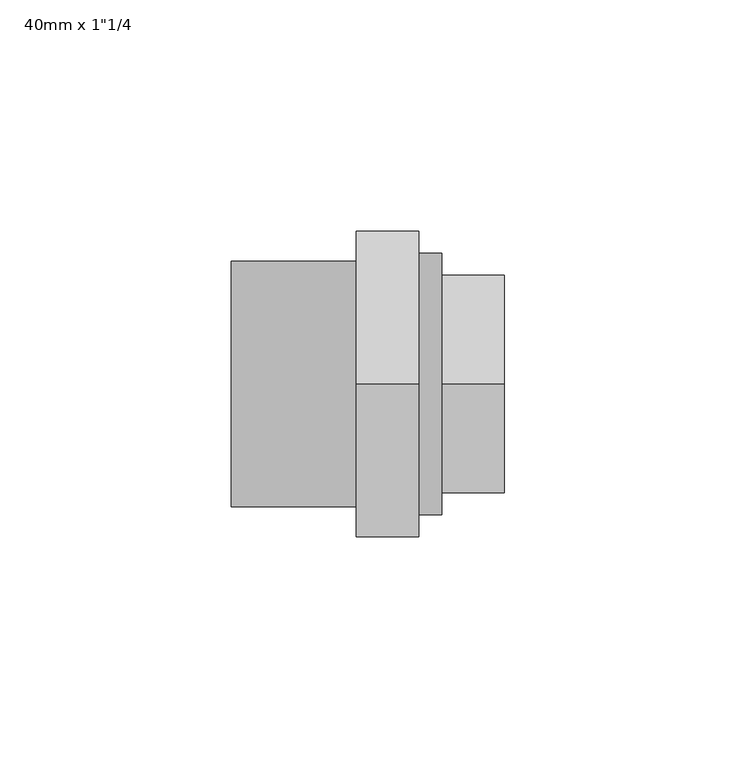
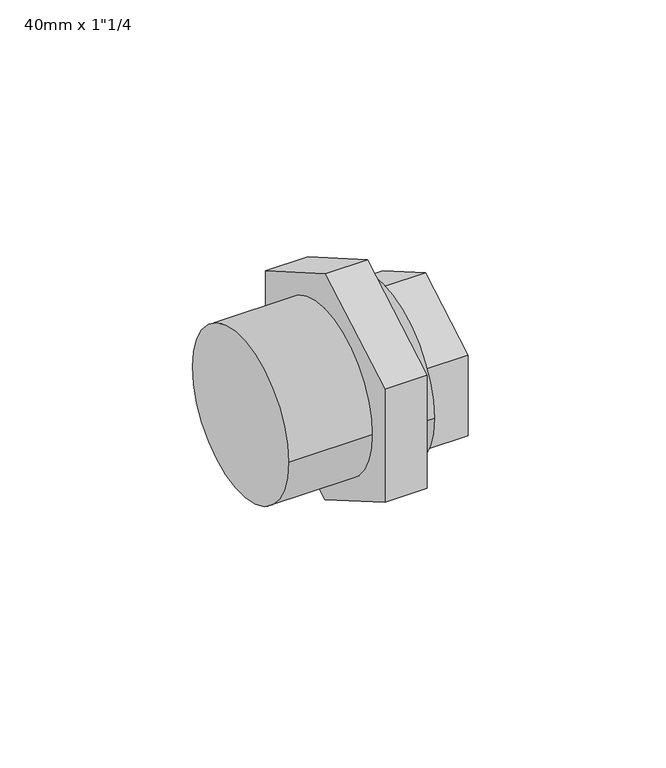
"""IFC4 building model written with IfcOpenShell, lengths in millimetres: pipe fitting geometry."""

import ifcopenshell
import ifcopenshell.guid

model = None  # the IFC model being written
_history = None  # IfcOwnerHistory: only IFC2X3 demands one
_inside = {}  # id of a spatial element -> (the spatial element, [elements in it])
_under = {}  # id of a project, library or spatial element -> (it, [spatial elements below it])
_declared = {}  # id of a project -> (the project, [libraries it declares])
_typed = {}  # id of a type object -> (the type object, [elements of that type])
_made_of = {}  # id of a material, layer set ... -> (it, [elements and type objects made of it])


def new_model(schema):
    """Start an empty IFC model of exactly this schema.

    Asked for "IFC4X3", IfcOpenShell would pick the latest addendum, in which some entities
    have other attributes; the version numbers below select the first issue.
    IFC2X3 requires an IfcOwnerHistory on every rooted entity: one is made here for all.
    """
    global model, _history
    if schema == "IFC4X3":
        model = ifcopenshell.file(schema_version=(4, 3, 0, 0))
    else:
        model = ifcopenshell.file(schema=schema)
    _inside.clear()
    _under.clear()
    _declared.clear()
    _typed.clear()
    _made_of.clear()
    _history = None
    if model.schema == "IFC2X3":
        org = make("IfcOrganization", Name="unknown")
        user = make(
            "IfcPersonAndOrganization",
            ThePerson=make("IfcPerson", FamilyName="unknown"),
            TheOrganization=org,
        )
        app = make(
            "IfcApplication",
            ApplicationDeveloper=org,
            Version="unknown",
            ApplicationFullName="unknown",
            ApplicationIdentifier="unknown",
        )
        _history = make(
            "IfcOwnerHistory",
            OwningUser=user,
            OwningApplication=app,
            ChangeAction="ADDED",
            CreationDate=0,
        )
    return model


def make(cls, **values):
    """One entity of the class cls with the attributes given. An attribute that is None is left unset."""
    return model.create_entity(
        cls, **{name: value for name, value in values.items() if value is not None}
    )


def rooted(cls, **values):
    """An entity with a GlobalId (a new one), such as an element, a storey or a relation."""
    return make(cls, GlobalId=ifcopenshell.guid.new(), OwnerHistory=_history, **values)


def si_unit(unit_type, name, prefix=None):
    """IfcSIUnit, for example si_unit("LENGTHUNIT", "METRE", prefix="MILLI")."""
    return make("IfcSIUnit", UnitType=unit_type, Prefix=prefix, Name=name)


def assignment(units):
    """IfcUnitAssignment: the units of a project."""
    return None if units is None else make("IfcUnitAssignment", Units=units)


def point(xyz):
    """IfcCartesianPoint."""
    return None if xyz is None else make("IfcCartesianPoint", Coordinates=xyz)


def direction(xyz):
    """IfcDirection."""
    return None if xyz is None else make("IfcDirection", DirectionRatios=xyz)


def frame(location, z_axis=None, x_axis=None):
    """IfcAxis2Placement3D, a coordinate frame: its origin and axes. An axis left out is left unset."""
    return make(
        "IfcAxis2Placement3D",
        Location=point(location),
        Axis=direction(z_axis),
        RefDirection=direction(x_axis),
    )


def frame_2d(location, x_axis=None):
    """IfcAxis2Placement2D, a coordinate frame in the plane: its origin and x axis."""
    return make(
        "IfcAxis2Placement2D", Location=point(location), RefDirection=direction(x_axis)
    )


def origin():
    """The frame at (0, 0, 0) with its axes left unset."""
    return frame((0.0, 0.0, 0.0))


def origin_2d():
    """The frame at (0, 0) in the plane with its x axis left unset."""
    return frame_2d((0.0, 0.0))


def place(relative_to, where):
    """IfcLocalPlacement: puts the frame where relative to a parent placement (None: the world)."""
    return make(
        "IfcLocalPlacement", PlacementRelTo=relative_to, RelativePlacement=where
    )


def context(
    kind, dimensions, precision=None, world=None, true_north=None, identifier=None
):
    """IfcGeometricRepresentationContext, for example the 3D "Model" context."""
    return make(
        "IfcGeometricRepresentationContext",
        ContextIdentifier=identifier,
        ContextType=kind,
        CoordinateSpaceDimension=dimensions,
        Precision=precision,
        WorldCoordinateSystem=world,
        TrueNorth=true_north,
    )


def project(units=None, contexts=None):
    """IfcProject with its units and contexts."""
    return rooted(
        "IfcProject",
        Name="project",
        RepresentationContexts=contexts,
        UnitsInContext=assignment(units),
    )


def spatial(cls, under=None, at=None, **own):
    """A site, building, storey or space (cls), placed at a placement, below another one or the project."""
    s = rooted(cls, ObjectPlacement=at, **own)
    if under is not None:
        _under.setdefault(under.id(), (under, []))[1].append(s)
    return s


def circle_curve(where, radius):
    """IfcCircle in the frame where."""
    return make("IfcCircle", Position=where, Radius=radius)


def trimmed(basis, trim1, trim2, sense, master):
    """IfcTrimmedCurve: the piece of a basis curve between two trims."""
    return make(
        "IfcTrimmedCurve",
        BasisCurve=basis,
        Trim1=trim1,
        Trim2=trim2,
        SenseAgreement=sense,
        MasterRepresentation=master,
    )


def segment(curve, same_sense, transition):
    """IfcCompositeCurveSegment."""
    return make(
        "IfcCompositeCurveSegment",
        Transition=transition,
        SameSense=same_sense,
        ParentCurve=curve,
    )


def composite_curve(segments, self_intersect=None):
    """IfcCompositeCurve: segments joined end to end."""
    return make("IfcCompositeCurve", Segments=segments, SelfIntersect=self_intersect)


def outline(outer, holes=None, kind="AREA"):
    """IfcArbitraryClosedProfileDef: a profile drawn as a closed curve; with holes, ...WithVoids."""
    if holes is None:
        return make("IfcArbitraryClosedProfileDef", ProfileType=kind, OuterCurve=outer)
    return make(
        "IfcArbitraryProfileDefWithVoids",
        ProfileType=kind,
        OuterCurve=outer,
        InnerCurves=holes,
    )


def extrude(swept, where, along, depth):
    """IfcExtrudedAreaSolid: the profile swept, set in the frame where, extruded along a direction by depth."""
    return make(
        "IfcExtrudedAreaSolid",
        SweptArea=swept,
        Position=where,
        ExtrudedDirection=direction(along),
        Depth=depth,
    )


def shape(context_of_items, identifier, shape_type, items):
    """IfcShapeRepresentation: the items that make up one representation, for example the "Body"."""
    return make(
        "IfcShapeRepresentation",
        ContextOfItems=context_of_items,
        RepresentationIdentifier=identifier,
        RepresentationType=shape_type,
        Items=items,
    )


def source(mapping_origin, context_of_items, identifier, shape_type, items):
    """IfcRepresentationMap: a shape defined once, which mapped items show again and again."""
    return make(
        "IfcRepresentationMap",
        MappingOrigin=mapping_origin,
        MappedRepresentation=shape(context_of_items, identifier, shape_type, items),
    )


def transform(
    local_origin,
    x_axis=None,
    y_axis=None,
    z_axis=None,
    scale=None,
    scale2=None,
    scale3=None,
    uniform=True,
):
    """IfcCartesianTransformationOperator3D, or its non-uniform kind. x_axis, y_axis, z_axis: its Axis1, 2, 3."""
    if uniform:
        return make(
            "IfcCartesianTransformationOperator3D",
            Axis1=direction(x_axis),
            Axis2=direction(y_axis),
            LocalOrigin=point(local_origin),
            Scale=scale,
            Axis3=direction(z_axis),
        )
    return make(
        "IfcCartesianTransformationOperator3DnonUniform",
        Axis1=direction(x_axis),
        Axis2=direction(y_axis),
        LocalOrigin=point(local_origin),
        Scale=scale,
        Axis3=direction(z_axis),
        Scale2=scale2,
        Scale3=scale3,
    )


def mapped(mapping_source, mapping_target):
    """IfcMappedItem: shows the shape of a source again, moved by a transform."""
    return make(
        "IfcMappedItem", MappingSource=mapping_source, MappingTarget=mapping_target
    )


def made_of(thing, what):
    """Note that an element or type object is made of a material, layer set ...; save() writes the relation."""
    if what is not None:
        _made_of.setdefault(what.id(), (what, []))[1].append(thing)
    return thing


def element(
    cls,
    number,
    at=None,
    inside=None,
    cuts=None,
    type_object=None,
    material=None,
    context=None,
    identifier="Body",
    shape_type=None,
    held_by="IfcProductDefinitionShape",
    body=None,
    shapes=None,
    **own,
):
    """One element of the class cls, such as IfcWall. Its Tag is "e" and its number.

    at: its placement. inside: the storey or other place that contains it. cuts: it is an
    opening in that element (IfcRelVoidsElement). A single representation is given by context,
    identifier, shape_type and body (its items); several are given by shapes. held_by: the class
    of the entity that holds the representations. save() writes the other relations.
    """
    e = rooted(cls, Tag="e%d" % number, ObjectPlacement=at, **own)
    if body is not None:
        shapes = [shape(context, identifier, shape_type, body)]
    if shapes is not None:
        e.Representation = make(held_by, Representations=shapes)
    if inside is not None:
        _inside.setdefault(inside.id(), (inside, []))[1].append(e)
    if cuts is not None:
        rooted(
            "IfcRelVoidsElement", RelatingBuildingElement=cuts, RelatedOpeningElement=e
        )
    if type_object is not None:
        _typed.setdefault(type_object.id(), (type_object, []))[1].append(e)
    return made_of(e, material)


def aggregate(whole, parts):
    """IfcRelAggregates: a whole, such as a stair, and the parts it consists of."""
    return rooted("IfcRelAggregates", RelatingObject=whole, RelatedObjects=parts)


def save(model, path):
    """Write the relations noted so far, then the file.

    IfcRelAggregates (storeys below a building ...), IfcRelContainedInSpatialStructure (elements
    in a storey), IfcRelDefinesByType, IfcRelAssociatesMaterial and IfcRelDeclares: one each for
    every whole, place, type object, material and project.
    """
    for whole, parts in _under.values():
        aggregate(whole, parts)
    for where, things in _inside.values():
        rooted(
            "IfcRelContainedInSpatialStructure",
            RelatedElements=things,
            RelatingStructure=where,
        )
    for kind, things in _typed.values():
        rooted("IfcRelDefinesByType", RelatedObjects=things, RelatingType=kind)
    for what, things in _made_of.values():
        rooted("IfcRelAssociatesMaterial", RelatedObjects=things, RelatingMaterial=what)
    for by, libraries in _declared.values():
        rooted("IfcRelDeclares", RelatingContext=by, RelatedDefinitions=libraries)
    model.write(path)


def plane_surface(at):
    """IfcPlane: the flat surface through the origin of the frame at, square to its z axis."""
    return make("IfcPlane", Position=at)


def cylinder_surface(at, radius):
    """IfcCylindricalSurface: all points at the distance radius from the z axis of the frame at."""
    return make("IfcCylindricalSurface", Position=at, Radius=radius)


def advanced_brep(points, edges, surfaces, faces):
    """IfcAdvancedBrep: a solid bounded by faces that lie on surfaces and meet in shared edges.

    An edge is (start, end): straight between two places in points (the first is 0);
    or (start, end, curve); or (start, end, curve, False) where it runs against its curve.
    A face is (place in surfaces, loops), or (place, loops, False) where it looks against
    its surface's normal. A loop lists edges by number (the first is 1), with a minus sign
    where the edge is run from its end to its start. The first loop is the outer one.
    """
    corners = [point(p) for p in points]
    vertices = [make("IfcVertexPoint", VertexGeometry=c) for c in corners]
    made = []
    for start, end, *more in edges:
        made.append(
            make(
                "IfcEdgeCurve",
                EdgeStart=vertices[start],
                EdgeEnd=vertices[end],
                EdgeGeometry=more[0] if more else make("IfcPolyline", Points=[corners[start], corners[end]]),
                SameSense=more[1] if len(more) > 1 else True,
            )
        )
    hull = []
    for where, loops, *sense in faces:
        bounds = []
        for j, loop in enumerate(loops):
            ring = [make("IfcOrientedEdge", EdgeElement=made[abs(k) - 1], Orientation=k > 0) for k in loop]
            bounds.append(
                make(
                    "IfcFaceOuterBound" if j == 0 else "IfcFaceBound",
                    Bound=make("IfcEdgeLoop", EdgeList=ring),
                    Orientation=True,
                )
            )
        hull.append(make("IfcAdvancedFace", Bounds=bounds, FaceSurface=surfaces[where], SameSense=sense[0] if sense else True))
    return make("IfcAdvancedBrep", Outer=make("IfcClosedShell", CfsFaces=hull))


def pipe_fitting_eeb10d21(model_context):
    return source(origin(), model_context, "Body", "SolidModel", [
        advanced_brep(
        [(45.5, 0.0, 27.1354627), (45.5, -23.5, 13.5677313), (45.5, -23.5, -13.5677313), (45.5, 0.0, -27.1354627), (45.5, 23.5, -13.5677313), (45.5, 23.5, 13.5677313), (32.0, 23.5, 13.5677313), (32.0, 0.0, 27.1354627), (32.0, 23.5, -13.5677313), (32.0, 0.0, -27.1354627), (32.0, -23.5, -13.5677313), (32.0, -23.5, 13.5677313), (32.0, -28.25, 0.0), (32.0, 28.25, 0.0), (27.0, 28.25, 0.0), (27.0, -28.25, 0.0), (13.5, 0.0, 38.1051178), (13.5, 33.0, 19.0525589), (13.5, 33.0, -19.0525589), (13.5, 0.0, -38.1051178), (13.5, -33.0, -19.0525589), (13.5, -33.0, 19.0525589), (27.0, 0.0, 38.1051178), (27.0, -33.0, 19.0525589), (27.0, -33.0, -19.0525589), (27.0, 0.0, -38.1051178), (27.0, 33.0, -19.0525589), (27.0, 33.0, 19.0525589)],
        [
            (0, 1),
            (1, 2),
            (2, 3),
            (3, 4),
            (4, 5),
            (5, 0),
            (5, 6),
            (6, 7),
            (7, 0),
            (4, 8),
            (8, 6),
            (3, 9),
            (9, 8),
            (2, 10),
            (10, 9),
            (1, 11),
            (11, 10),
            (7, 11),
            (12, 13, circle_curve(frame((32.0, 0.0, 0.0), z_axis=(1.0, 0.0, 0.0), x_axis=(0.0, 1.0, 0.0)), 28.25)),
            (13, 12, circle_curve(frame((32.0, 0.0, 0.0), z_axis=(1.0, 0.0, 0.0), x_axis=(0.0, 1.0, 0.0)), 28.25)),
            (13, 14),
            (14, 15, circle_curve(frame((27.0, 0.0, 0.0), z_axis=(1.0, 0.0, 0.0), x_axis=(0.0, 1.0, 0.0)), 28.25)),
            (15, 12),
            (15, 14, circle_curve(frame((27.0, 0.0, 0.0), z_axis=(1.0, 0.0, 0.0), x_axis=(0.0, 1.0, 0.0)), 28.25)),
            (16, 17),
            (17, 18),
            (18, 19),
            (19, 20),
            (20, 21),
            (21, 16),
            (22, 23),
            (23, 24),
            (24, 25),
            (25, 26),
            (26, 27),
            (27, 22),
            (16, 22),
            (27, 17),
            (26, 18),
            (25, 19),
            (24, 20),
            (23, 21),
        ],
        [
            plane_surface(frame((45.5, 0.0, 0.0), z_axis=(1.0, 0.0, 0.0), x_axis=(0.0, 0.0, 1.0))),
            plane_surface(frame((32.0, 0.0, 27.1354627), z_axis=(0.0, 0.49999999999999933, 0.8660254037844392), x_axis=(1.0, 0.0, 0.0))),
            plane_surface(frame((32.0, 23.5, 13.5677313), z_axis=(0.0, 1.0, 0.0), x_axis=(1.0, 0.0, 0.0))),
            plane_surface(frame((32.0, 23.5, -13.5677313), z_axis=(0.0, 0.49999999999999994, -0.8660254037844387), x_axis=(1.0, 0.0, 0.0))),
            plane_surface(frame((32.0, 0.0, -27.1354627), z_axis=(0.0, -0.49999999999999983, -0.8660254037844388), x_axis=(1.0, 0.0, 0.0))),
            plane_surface(frame((32.0, -23.5, -13.5677313), z_axis=(0.0, -1.0, 0.0), x_axis=(1.0, 0.0, 0.0))),
            plane_surface(frame((32.0, -23.5, 13.5677313), z_axis=(0.0, -0.5000000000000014, 0.8660254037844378), x_axis=(1.0, 0.0, 0.0))),
            plane_surface(frame((32.0, 0.0, 0.0), z_axis=(1.0, 0.0, 0.0), x_axis=(0.0, 0.0, 1.0))),
            cylinder_surface(frame((27.0, 0.0, 0.0), z_axis=(-1.0, 0.0, 0.0), x_axis=(0.0, 1.0, 0.0)), 28.25),
            plane_surface(frame((13.5, 0.0, 0.0), z_axis=(-1.0, 0.0, 0.0), x_axis=(0.0, 0.0, 1.0))),
            plane_surface(frame((27.0, 0.0, 0.0), z_axis=(1.0, 0.0, 0.0), x_axis=(0.0, 0.0, 1.0))),
            plane_surface(frame((13.5, 0.0, 38.1051178), z_axis=(0.0, 0.49999999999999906, 0.8660254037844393), x_axis=(1.0, 0.0, 0.0))),
            plane_surface(frame((13.5, 33.0, 19.0525589), z_axis=(0.0, 1.0, 0.0), x_axis=(1.0, 0.0, 0.0))),
            plane_surface(frame((13.5, 33.0, -19.0525589), z_axis=(0.0, 0.49999999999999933, -0.866025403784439), x_axis=(1.0, 0.0, 0.0))),
            plane_surface(frame((13.5, 0.0, -38.1051178), z_axis=(0.0, -0.4999999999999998, -0.8660254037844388), x_axis=(1.0, 0.0, 0.0))),
            plane_surface(frame((13.5, -33.0, -19.0525589), z_axis=(0.0, -1.0, 0.0), x_axis=(1.0, 0.0, 0.0))),
            plane_surface(frame((13.5, -33.0, 19.0525589), z_axis=(0.0, -0.5000000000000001, 0.8660254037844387), x_axis=(1.0, 0.0, 0.0))),
        ],
        [
            (0, [[1, 2, 3, 4, 5, 6]]),
            (1, [[-6, 7, 8, 9]]),
            (2, [[-5, 10, 11, -7]]),
            (3, [[-4, 12, 13, -10]]),
            (4, [[-3, 14, 15, -12]]),
            (5, [[-2, 16, 17, -14]]),
            (6, [[-1, -9, 18, -16]]),
            (7, [[19, 20], [-8, -11, -13, -15, -17, -18]]),
            (8, [[-20, 21, 22, 23]]),
            (8, [[-19, -23, 24, -21]]),
            (9, [[25, 26, 27, 28, 29, 30]]),
            (10, [[31, 32, 33, 34, 35, 36], [-22, -24]]),
            (11, [[-25, 37, -36, 38]]),
            (12, [[-26, -38, -35, 39]]),
            (13, [[-27, -39, -34, 40]]),
            (14, [[-28, -40, -33, 41]]),
            (15, [[-29, -41, -32, 42]]),
            (16, [[-30, -42, -31, -37]]),
        ],
    ),
        extrude(outline(composite_curve([segment(trimmed(circle_curve(origin_2d(), 26.5), [point((-26.5, 0.0))], [point((26.5, 0.0))], False, "CARTESIAN"), True, "CONTINUOUS"), segment(trimmed(circle_curve(origin_2d(), 26.5), [point((26.5, 0.0))], [point((-26.5, 0.0))], False, "CARTESIAN"), True, "CONTINUOUS")], self_intersect=False)), frame((-13.5, 0.0, 0.0), z_axis=(1.0, 0.0, 0.0), x_axis=(0.0, 1.0, 0.0)), (0.0, 0.0, 1.0), 27.0),
    ])


if __name__ == "__main__":
    model = new_model("IFC4")
    model_context = context("Model", 3, world=origin())
    ifc_project = project(units=[si_unit("LENGTHUNIT", "METRE", prefix="MILLI")], contexts=[model_context])
    site = spatial("IfcSite", under=ifc_project)
    building = spatial("IfcBuilding", under=site)
    placement = place(None, origin())
    pipe_fitting_shape = pipe_fitting_eeb10d21(model_context)
    element("IfcPipeFitting", 1, ObjectType="PipeFitting_HTA_CPVC_3PieceUnions_(CPVC-Brass) : 40mm x 1\"1/4", at=placement, inside=building, context=model_context, shape_type="MappedRepresentation", body=[
        mapped(pipe_fitting_shape, transform((0.0, 0.0, 0.0), x_axis=(1.0, 0.0, 0.0), y_axis=(0.0, 1.0, 0.0), z_axis=(0.0, 0.0, 1.0))),
    ])
    save(model, "model.ifc")
